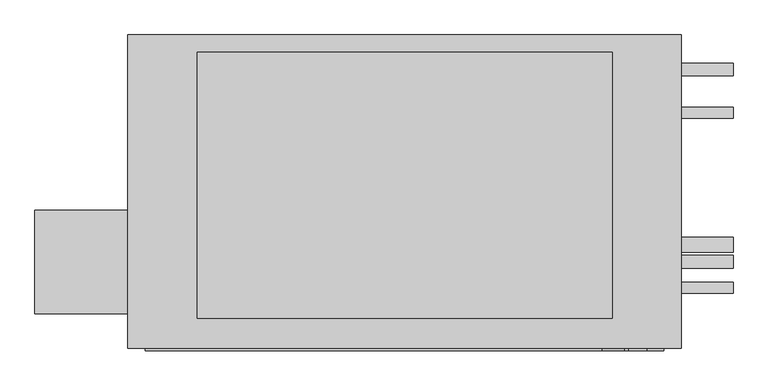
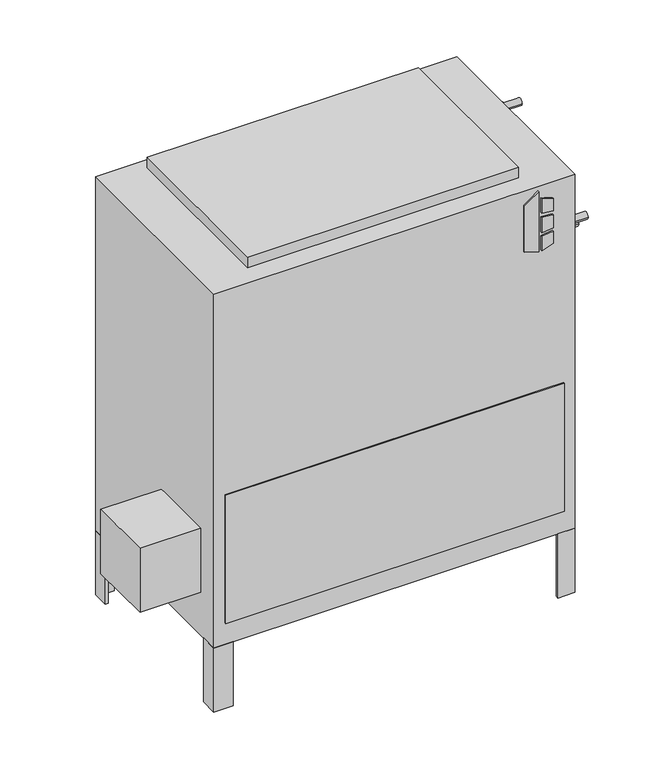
"""IFC4 building model written with IfcOpenShell, lengths in millimetres: proxy geometry, Concealed_High_Capacity_Vertical_Fan_Coil_Unit_-_VEY_-_IEC_-_4-Pipe_RH_2022 : Size 10 - 277v/60Hz/1Ph - 4/2 Coil."""

from ifc_helpers import new_model, si_unit, point, frame, frame_2d, origin, origin_with_axes, place, context, project, spatial, polyline, circle_curve, trimmed, segment, composite_curve, outline, extrude, source, transform, mapped, element, save


def mechanical_equipment_87862ee8(model_context):
    return source(origin(), model_context, "Body", "SweptSolid", [
        extrude(outline(polyline([(698.9230703, 442.9868862), (688.975, 475.1602728), (831.1459244, 475.1602728), (808.1239183, 442.9868862), (698.9230703, 442.9868862)])), frame((0.0, -471.4875, 0.0), z_axis=(0.0, 1.0, 0.0), x_axis=(0.0, 0.0, 1.0)), (0.0, 0.0, 1.0), 3.175),
        extrude(outline(polyline([(777.9223557, 481.9186058), (774.7199632, 508.0), (803.9488042, 508.0), (812.0132193, 481.9186058), (777.9223557, 481.9186058)])), frame((0.0, -471.4875, 0.0), z_axis=(0.0, 1.0, 0.0), x_axis=(0.0, 0.0, 1.0)), (0.0, 0.0, 1.0), 3.175),
        extrude(outline(polyline([(726.0588288, 508.0), (722.3933279, 481.9186058), (688.975, 481.9186058), (697.6092372, 508.0), (726.0588288, 508.0)])), frame((0.0, -471.4875, 0.0), z_axis=(0.0, 1.0, 0.0), x_axis=(0.0, 0.0, 1.0)), (0.0, 0.0, 1.0), 3.175),
        extrude(outline(polyline([(765.3739903, 508.0), (767.6558166, 481.9186058), (731.7182681, 481.9186058), (734.4595331, 508.0), (765.3739903, 508.0)])), frame((0.0, -471.4875, 0.0), z_axis=(0.0, 1.0, 0.0), x_axis=(0.0, 0.0, 1.0)), (0.0, 0.0, 1.0), 3.175),
        extrude(outline(polyline([(-390.525, -417.5125), (-390.525, -265.1125), (-254.0, -265.1125), (-254.0, -417.5125), (-390.525, -417.5125)])), frame((0.0, 0.0, 101.6), z_axis=(0.0, 0.0, 1.0), x_axis=(1.0, 0.0, 0.0)), (0.0, 0.0, 1.0), 152.4),
        extrude(outline(polyline([(558.8, -46.0375), (552.45, -46.0375), (552.45, -14.2875), (520.7, -14.2875), (520.7, -7.9375), (558.8, -7.9375), (558.8, -46.0375)])), frame((0.0, 0.0, -152.4), z_axis=(0.0, 0.0, 1.0), x_axis=(1.0, 0.0, 0.0)), (0.0, 0.0, 1.0), 152.4),
        extrude(outline(polyline([(-215.9, -7.9375), (-215.9, -14.2875), (-247.65, -14.2875), (-247.65, -46.0375), (-254.0, -46.0375), (-254.0, -7.9375), (-215.9, -7.9375)])), frame((0.0, 0.0, -152.4), z_axis=(0.0, 0.0, 1.0), x_axis=(1.0, 0.0, 0.0)), (0.0, 0.0, 1.0), 152.4),
        extrude(outline(polyline([(520.7, -468.3125), (520.7, -461.9625), (552.45, -461.9625), (552.45, -430.2125), (558.8, -430.2125), (558.8, -468.3125), (520.7, -468.3125)])), frame((0.0, 0.0, -152.4), z_axis=(0.0, 0.0, 1.0), x_axis=(1.0, 0.0, 0.0)), (0.0, 0.0, 1.0), 152.4),
        extrude(outline(polyline([(-254.0, -428.1199163), (-247.65, -428.1199163), (-247.65, -461.9625), (-210.5318533, -461.9625), (-210.5318533, -468.3125), (-254.0, -468.3125), (-254.0, -428.1199163)])), frame((0.0, 0.0, -152.4), z_axis=(0.0, 0.0, 1.0), x_axis=(1.0, 0.0, 0.0)), (0.0, 0.0, 1.0), 152.4),
        extrude(outline(polyline([(457.2, -33.3375), (457.2, -423.8625), (-152.4, -423.8625), (-152.4, -33.3375), (457.2, -33.3375)])), frame((0.0, 0.0, 841.375), z_axis=(0.0, 0.0, 1.0), x_axis=(1.0, 0.0, 0.0)), (0.0, 0.0, 1.0), 25.4),
        extrude(outline(polyline([(533.4, -471.4875), (-228.6, -471.4875), (-228.6, -468.3125), (533.4, -468.3125), (533.4, -471.4875)])), frame((0.0, 0.0, 50.8), z_axis=(0.0, 0.0, 1.0), x_axis=(1.0, 0.0, 0.0)), (0.0, 0.0, 1.0), 304.8),
        extrude(outline(composite_curve([segment(trimmed(circle_curve(frame_2d((-122.2375, 777.875)), 7.9375), [point((-114.3, 777.875))], [point((-130.175, 777.875))], False, "CARTESIAN"), True, "CONTINUOUS"), segment(trimmed(circle_curve(frame_2d((-122.2375, 777.875)), 7.9375), [point((-130.175, 777.875))], [point((-114.3, 777.875))], False, "CARTESIAN"), True, "CONTINUOUS")], self_intersect=False)), frame((558.8, 0.0, 0.0), z_axis=(1.0, 0.0, 0.0), x_axis=(0.0, 1.0, 0.0)), (0.0, 0.0, 1.0), 76.2),
        extrude(outline(composite_curve([segment(trimmed(circle_curve(frame_2d((-379.4125, 663.575)), 7.9375), [point((-371.475, 663.575))], [point((-387.35, 663.575))], False, "CARTESIAN"), True, "CONTINUOUS"), segment(trimmed(circle_curve(frame_2d((-379.4125, 663.575)), 7.9375), [point((-387.35, 663.575))], [point((-371.475, 663.575))], False, "CARTESIAN"), True, "CONTINUOUS")], self_intersect=False)), frame((558.8, 0.0, 0.0), z_axis=(1.0, 0.0, 0.0), x_axis=(0.0, 1.0, 0.0)), (0.0, 0.0, 1.0), 76.2),
        extrude(outline(composite_curve([segment(trimmed(circle_curve(frame_2d((-58.7375, 727.075)), 9.525), [point((-49.2125, 727.075))], [point((-68.2625, 727.075))], False, "CARTESIAN"), True, "CONTINUOUS"), segment(trimmed(circle_curve(frame_2d((-58.7375, 727.075)), 9.525), [point((-68.2625, 727.075))], [point((-49.2125, 727.075))], False, "CARTESIAN"), True, "CONTINUOUS")], self_intersect=False)), frame((558.8, 0.0, 0.0), z_axis=(1.0, 0.0, 0.0), x_axis=(0.0, 1.0, 0.0)), (0.0, 0.0, 1.0), 76.2),
        extrude(outline(composite_curve([segment(trimmed(circle_curve(frame_2d((-341.3125, 625.475)), 9.525), [point((-331.7875, 625.475))], [point((-350.8375, 625.475))], False, "CARTESIAN"), True, "CONTINUOUS"), segment(trimmed(circle_curve(frame_2d((-341.3125, 625.475)), 9.525), [point((-350.8375, 625.475))], [point((-331.7875, 625.475))], False, "CARTESIAN"), True, "CONTINUOUS")], self_intersect=False)), frame((558.8, 0.0, 0.0), z_axis=(1.0, 0.0, 0.0), x_axis=(0.0, 1.0, 0.0)), (0.0, 0.0, 1.0), 76.2),
        extrude(outline(composite_curve([segment(trimmed(circle_curve(frame_2d((-315.9125, 536.575)), 11.1125), [point((-304.8, 536.575))], [point((-327.025, 536.575))], False, "CARTESIAN"), True, "CONTINUOUS"), segment(trimmed(circle_curve(frame_2d((-315.9125, 536.575)), 11.1125), [point((-327.025, 536.575))], [point((-304.8, 536.575))], False, "CARTESIAN"), True, "CONTINUOUS")], self_intersect=False)), frame((558.8, 0.0, 0.0), z_axis=(1.0, 0.0, 0.0), x_axis=(0.0, 1.0, 0.0)), (0.0, 0.0, 1.0), 76.2),
        extrude(outline(polyline([(558.8, -7.9375), (558.8, -468.3125), (-254.0, -468.3125), (-254.0, -7.9375), (558.8, -7.9375)])), origin_with_axes(), (0.0, 0.0, 1.0), 841.375),
    ])


if __name__ == "__main__":
    model = new_model("IFC4")
    model_context = context("Model", 3, world=origin())
    ifc_project = project(units=[si_unit("LENGTHUNIT", "METRE", prefix="MILLI")], contexts=[model_context])
    site = spatial("IfcSite", under=ifc_project)
    building = spatial("IfcBuilding", under=site)
    placement = place(None, origin())
    mechanical_equipment_shape = mechanical_equipment_87862ee8(model_context)
    element("IfcBuildingElementProxy", 1, Name="Concealed_High_Capacity_Vertical_Fan_Coil_Unit_-_VEY_-_IEC_-_4-Pipe_RH_2022 : Size 10 - 277v/60Hz/1Ph - 4/2 Coil", ObjectType="Concealed_High_Capacity_Vertical_Fan_Coil_Unit_-_VEY_-_IEC_-_4-Pipe_RH_2022 : Size 10 - 277v/60Hz/1Ph - 4/2 Coil", at=placement, inside=building, context=model_context, shape_type="MappedRepresentation", body=[
        mapped(mechanical_equipment_shape, transform((0.0, 0.0, 0.0), x_axis=(1.0, 0.0, 0.0), y_axis=(0.0, 1.0, 0.0), z_axis=(0.0, 0.0, 1.0))),
    ])
    save(model, "model.ifc")
